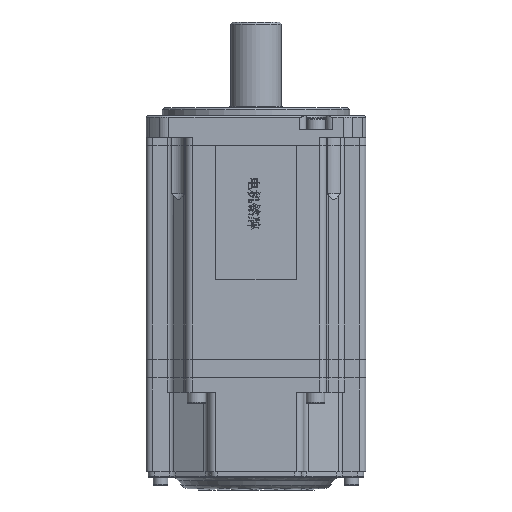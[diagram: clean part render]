
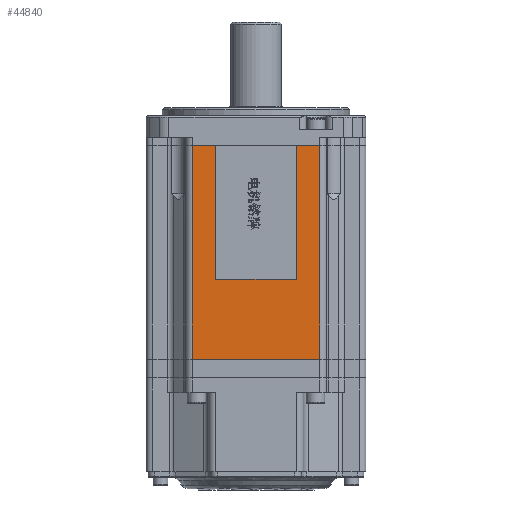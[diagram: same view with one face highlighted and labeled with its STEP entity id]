
A CAD part, front view. The second image highlights one B-rep face of the part: STEP entity #44840.
In plain terms, the highlighted planar face has unit normal (0, -1, 0).
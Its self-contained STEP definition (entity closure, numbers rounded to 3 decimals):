
#2701 = VECTOR ( 'NONE', #47800, 1000. ) ;
#3013 = EDGE_CURVE ( 'NONE', #58564, #80915, #23754, .T. ) ;
#4081 = ORIENTED_EDGE ( 'NONE', *, *, #3013, .F. ) ;
#5537 = CARTESIAN_POINT ( 'NONE',  ( -15., -41., 29.7 ) ) ;
#6714 = ORIENTED_EDGE ( 'NONE', *, *, #70051, .T. ) ;
#6766 = VECTOR ( 'NONE', #79088, 1000. ) ;
#6891 = DIRECTION ( 'NONE',  ( -1., 0., 0. ) ) ;
#10354 = PLANE ( 'NONE',  #48161 ) ;
#10358 = ORIENTED_EDGE ( 'NONE', *, *, #16686, .F. ) ;
#10529 = ORIENTED_EDGE ( 'NONE', *, *, #30524, .T. ) ;
#11977 = ORIENTED_EDGE ( 'NONE', *, *, #14516, .T. ) ;
#13635 = VERTEX_POINT ( 'NONE', #68361 ) ;
#14516 = EDGE_CURVE ( 'NONE', #34415, #84327, #57553, .T. ) ;
#15636 = LINE ( 'NONE', #37265, #6766 ) ;
#15696 = CARTESIAN_POINT ( 'NONE',  ( -23.75, -41., 0. ) ) ;
#16686 = EDGE_CURVE ( 'NONE', #34415, #58564, #62765, .T. ) ;
#17461 = DIRECTION ( 'NONE',  ( 0., 0., 1. ) ) ;
#17644 = ORIENTED_EDGE ( 'NONE', *, *, #84466, .T. ) ;
#17892 = VECTOR ( 'NONE', #6891, 1000. ) ;
#18057 = VECTOR ( 'NONE', #57095, 1000. ) ;
#20085 = EDGE_CURVE ( 'NONE', #80915, #57260, #15636, .T. ) ;
#21470 = LINE ( 'NONE', #76373, #2701 ) ;
#23754 = LINE ( 'NONE', #84494, #52323 ) ;
#25811 = LINE ( 'NONE', #79253, #67635 ) ;
#27009 = ORIENTED_EDGE ( 'NONE', *, *, #20085, .F. ) ;
#29769 = DIRECTION ( 'NONE',  ( 0., 0., -1. ) ) ;
#30524 = EDGE_CURVE ( 'NONE', #84327, #38510, #63185, .T. ) ;
#30725 = CARTESIAN_POINT ( 'NONE',  ( -23.75, -41., 1000. ) ) ;
#31291 = EDGE_LOOP ( 'NONE', ( #6714, #27009, #4081, #10358, #11977, #10529, #17644, #32629 ) ) ;
#31931 = VECTOR ( 'NONE', #49047, 1000. ) ;
#32629 = ORIENTED_EDGE ( 'NONE', *, *, #65855, .F. ) ;
#34415 = VERTEX_POINT ( 'NONE', #91380 ) ;
#37265 = CARTESIAN_POINT ( 'NONE',  ( 15., -41., 29.7 ) ) ;
#38510 = VERTEX_POINT ( 'NONE', #41368 ) ;
#40358 = CARTESIAN_POINT ( 'NONE',  ( -23.75, -41., 79.7 ) ) ;
#40503 = VERTEX_POINT ( 'NONE', #61752 ) ;
#41368 = CARTESIAN_POINT ( 'NONE',  ( -23.75, -41., 0. ) ) ;
#44840 = ADVANCED_FACE ( 'NONE', ( #78258 ), #10354, .F. ) ;
#45210 = CARTESIAN_POINT ( 'NONE',  ( 15., -41., 79.7 ) ) ;
#47800 = DIRECTION ( 'NONE',  ( -1., 0., 0. ) ) ;
#48161 = AXIS2_PLACEMENT_3D ( 'NONE', #30725, #51927, #17461 ) ;
#49047 = DIRECTION ( 'NONE',  ( 0., 0., -1. ) ) ;
#50640 = LINE ( 'NONE', #15696, #85870 ) ;
#51927 = DIRECTION ( 'NONE',  ( 0., 1., 0. ) ) ;
#52323 = VECTOR ( 'NONE', #84800, 1000. ) ;
#55232 = CARTESIAN_POINT ( 'NONE',  ( -198.803, -41., 79.7 ) ) ;
#56730 = CARTESIAN_POINT ( 'NONE',  ( -15., -41., 29.7 ) ) ;
#57095 = DIRECTION ( 'NONE',  ( 0., 0., -1. ) ) ;
#57260 = VERTEX_POINT ( 'NONE', #45210 ) ;
#57553 = LINE ( 'NONE', #55232, #17892 ) ;
#58564 = VERTEX_POINT ( 'NONE', #5537 ) ;
#61752 = CARTESIAN_POINT ( 'NONE',  ( 23.75, -41., 79.7 ) ) ;
#62765 = LINE ( 'NONE', #56730, #31931 ) ;
#63185 = LINE ( 'NONE', #91272, #18057 ) ;
#65855 = EDGE_CURVE ( 'NONE', #40503, #13635, #25811, .T. ) ;
#67635 = VECTOR ( 'NONE', #29769, 1000. ) ;
#68361 = CARTESIAN_POINT ( 'NONE',  ( 23.75, -41., 0. ) ) ;
#70051 = EDGE_CURVE ( 'NONE', #40503, #57260, #21470, .T. ) ;
#70207 = CARTESIAN_POINT ( 'NONE',  ( 15., -41., 29.7 ) ) ;
#70790 = DIRECTION ( 'NONE',  ( 1., 0., 0. ) ) ;
#76373 = CARTESIAN_POINT ( 'NONE',  ( -198.803, -41., 79.7 ) ) ;
#78258 = FACE_OUTER_BOUND ( 'NONE', #31291, .T. ) ;
#79088 = DIRECTION ( 'NONE',  ( 0., 0., 1. ) ) ;
#79253 = CARTESIAN_POINT ( 'NONE',  ( 23.75, -41., 1000. ) ) ;
#80915 = VERTEX_POINT ( 'NONE', #70207 ) ;
#84327 = VERTEX_POINT ( 'NONE', #40358 ) ;
#84466 = EDGE_CURVE ( 'NONE', #38510, #13635, #50640, .T. ) ;
#84494 = CARTESIAN_POINT ( 'NONE',  ( -15., -41., 29.7 ) ) ;
#84800 = DIRECTION ( 'NONE',  ( 1., 0., 0. ) ) ;
#85870 = VECTOR ( 'NONE', #70790, 1000. ) ;
#91272 = CARTESIAN_POINT ( 'NONE',  ( -23.75, -41., 1000. ) ) ;
#91380 = CARTESIAN_POINT ( 'NONE',  ( -15., -41., 79.7 ) ) ;
